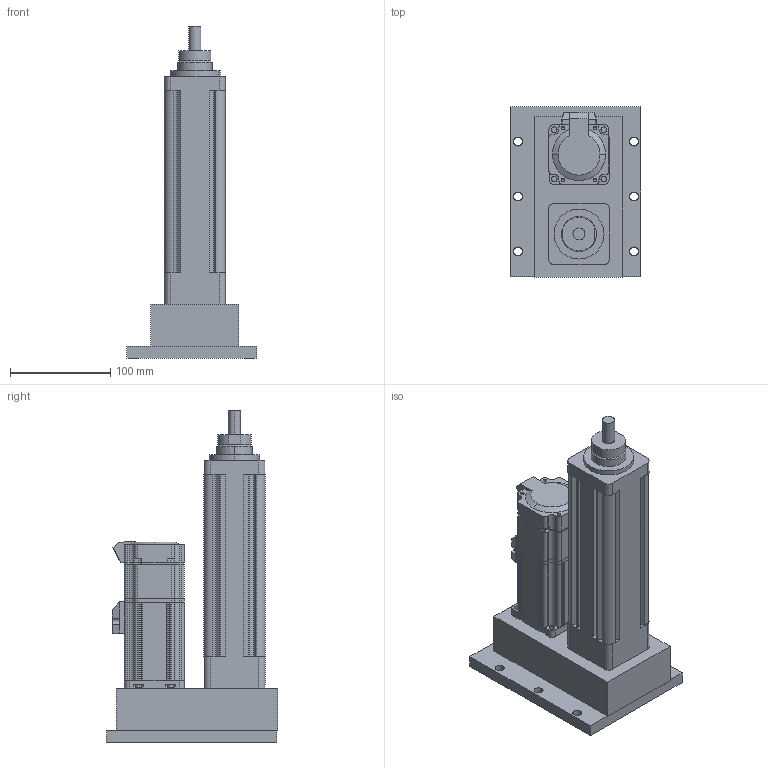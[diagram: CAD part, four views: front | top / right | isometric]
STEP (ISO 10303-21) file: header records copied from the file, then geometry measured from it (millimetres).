
FILE_DESCRIPTION (( 'STEP AP203' ), '1' );
FILE_NAME ('S2殏殿綴楊擘假蚾.STEP', '2024-05-27T05:11:23', ( '' ), ( '' ), 'SwSTEP 2.0', 'SolidWorks 2018', '' );
FILE_SCHEMA (( 'CONFIG_CONTROL_DESIGN' ));
Length unit declared in the file: millimetre
Products named in the file (3): 陓豎400W 湍价陬; S2殏殿綴楊擘假蚾; S2-殏殿綴楊擘
Assembly tree (2 placements, depth 2):
  S2殏殿綴楊擘假蚾
    S2-殏殿綴楊擘
    陓豎400W 湍价陬
Bounding box: 130 x 171 x 332 mm (x, y, z)
Volume: 1259489.2 mm3; surface area: 274543.8 mm2
Topology: 1 solids, 28 shells, 739 faces, 2111 edges, 1435 vertices
Faces by surface type: plane 367, cylinder 353, cone 11, torus 8
Entity records: 24577 total; most frequent: DIRECTION 4451, CARTESIAN_POINT 4391, ORIENTED_EDGE 3726, EDGE_CURVE 2111, AXIS2_PLACEMENT_3D 1611, VERTEX_POINT 1435, LINE 1229, VECTOR 1229
